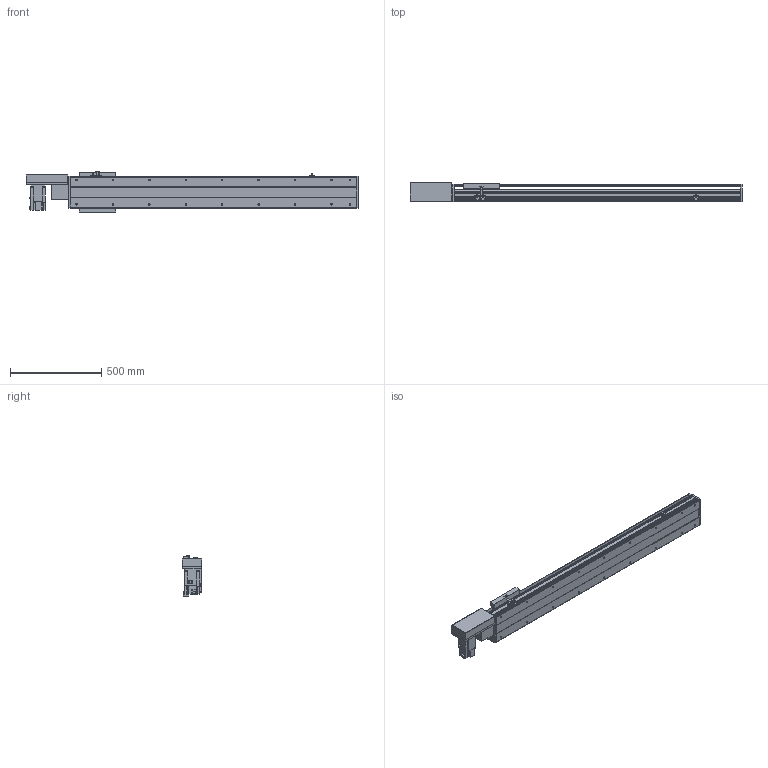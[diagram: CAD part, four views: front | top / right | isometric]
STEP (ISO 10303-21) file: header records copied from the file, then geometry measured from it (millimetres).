
FILE_DESCRIPTION(/* description */ ('STEP AP214'),/* implementation_level */ '2;1');
FILE_NAME(/* name */ 'PBS200-P40-S1200-R-T75-C1-N(0)',/* time_stamp */ '2022-06-11T08:05:55+02:00',/* author */ ('License CC BY-ND 4.0'),/* organization */ ('CADENAS'),/* preprocessor_version */ 'ST-DEVELOPER v18.102',/* originating_system */ 'PARTsolutions',/* authorisation */ ' ');
FILE_SCHEMA (('PROCESS_PLANNING_SCHEMA','AUTOMOTIVE_DESIGN {1 0 10303 214 3 1 1}'));
Length unit declared in the file: millimetre
Products named in the file (7): PBS200-P40-S1200-R-T75-C1-N(0); PBS200_sensor; PBS200_plant; PBS200_sliser; T75-p1; PBS200T-R_motors; PBS200-S1200()_body
Assembly tree (8 placements, depth 2):
  PBS200-P40-S1200-R-T75-C1-N(0)
    PBS200_sensor  x3
    PBS200_plant
    PBS200_sliser
    T75-p1
    PBS200T-R_motors
    PBS200-S1200()_body
Bounding box: 1822 x 109 x 221 mm (x, y, z)
Volume: 12486026.1 mm3; surface area: 2016539 mm2
Topology: 8 solids, 8 shells, 926 faces, 2384 edges, 1554 vertices
Faces by surface type: plane 576, cylinder 300, cone 50
Full cylindrical faces by diameter (mm): 2.459 x6, 3.242 x4, 4.5 x6, 4.917 x4, 5 x6, 6 x7, 6.6 x8, 6.647 x22, 8 x6, 10 x4, 12 x8, 38 x2, 40 x1, 70 x1
Entity records: 24701 total; most frequent: DIRECTION 4351, CARTESIAN_POINT 4210, ORIENTED_EDGE 3994, EDGE_CURVE 1997, AXIS2_PLACEMENT_3D 1519, VERTEX_POINT 1378, LINE 1313, VECTOR 1313
